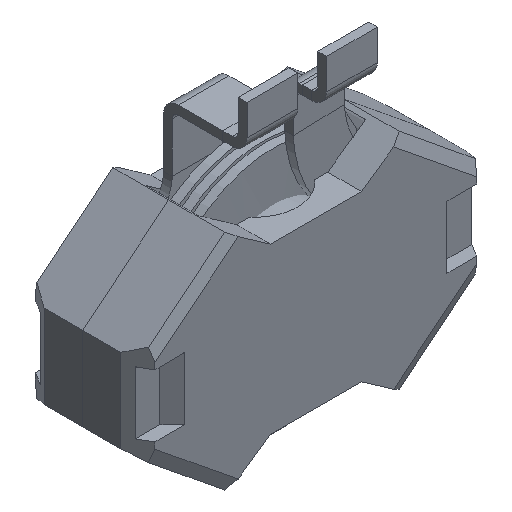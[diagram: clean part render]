
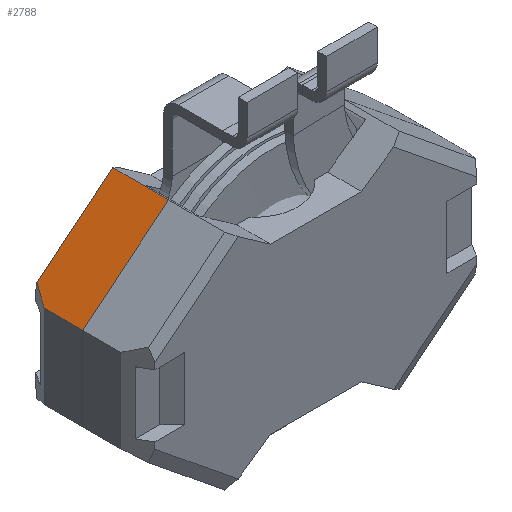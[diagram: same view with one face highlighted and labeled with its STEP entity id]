
A CAD part, isometric view. The second image highlights one B-rep face of the part: STEP entity #2788.
In plain terms, the highlighted planar face has unit normal (-0.63, 0, 0.776) as drawn and (-0.63, 0, -0.776) by its records, which use the part's own axes.
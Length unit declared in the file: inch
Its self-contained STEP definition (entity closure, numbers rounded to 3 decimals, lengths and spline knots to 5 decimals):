
#231 = AXIS2_PLACEMENT_3D ( 'NONE', #773, #1674, #3797 ) ;
#313 = CARTESIAN_POINT ( 'NONE',  ( -0.54724, 0.18898, -0.13189 ) ) ;
#362 = EDGE_CURVE ( 'NONE', #4469, #4374, #5342, .T. ) ;
#536 = ORIENTED_EDGE ( 'NONE', *, *, #2091, .F. ) ;
#773 = CARTESIAN_POINT ( 'NONE',  ( -0.27559, 0.18898, -0.35236 ) ) ;
#1004 = VECTOR ( 'NONE', #1098, 39.37008 ) ;
#1010 = DIRECTION ( 'NONE',  ( 0., -1., 0. ) ) ;
#1098 = DIRECTION ( 'NONE',  ( -0.776, 0., 0.63 ) ) ;
#1115 = CARTESIAN_POINT ( 'NONE',  ( -0.27559, 0.18898, -0.35236 ) ) ;
#1248 = LINE ( 'NONE', #4348, #2582 ) ;
#1330 = EDGE_CURVE ( 'NONE', #4469, #3904, #4844, .T. ) ;
#1337 = VECTOR ( 'NONE', #1010, 39.37008 ) ;
#1674 = DIRECTION ( 'NONE',  ( 0.63, 0., 0.776 ) ) ;
#1837 = CARTESIAN_POINT ( 'NONE',  ( -0.51532, 0.0129, -0.1578 ) ) ;
#1850 = CARTESIAN_POINT ( 'NONE',  ( -0.27559, 0.18898, -0.35236 ) ) ;
#1851 = CARTESIAN_POINT ( 'NONE',  ( -0.5932, 0.14778, -0.09459 ) ) ;
#1867 = DIRECTION ( 'NONE',  ( -0.463, 0.802, 0.376 ) ) ;
#1979 = LINE ( 'NONE', #1851, #2508 ) ;
#2091 = EDGE_CURVE ( 'NONE', #3904, #4296, #4336, .T. ) ;
#2508 = VECTOR ( 'NONE', #1867, 39.37008 ) ;
#2582 = VECTOR ( 'NONE', #4726, 39.37008 ) ;
#2788 = ADVANCED_FACE ( 'NONE', ( #5536 ), #4270, .F. ) ;
#2966 = ORIENTED_EDGE ( 'NONE', *, *, #1330, .F. ) ;
#3413 = DIRECTION ( 'NONE',  ( 0., -1., 0. ) ) ;
#3506 = ORIENTED_EDGE ( 'NONE', *, *, #362, .T. ) ;
#3797 = DIRECTION ( 'NONE',  ( 0.776, 0., -0.63 ) ) ;
#3855 = EDGE_CURVE ( 'NONE', #4374, #5551, #1248, .T. ) ;
#3904 = VERTEX_POINT ( 'NONE', #313 ) ;
#4177 = CARTESIAN_POINT ( 'NONE',  ( -0.54724, 0.06819, -0.13189 ) ) ;
#4270 = PLANE ( 'NONE',  #231 ) ;
#4296 = VERTEX_POINT ( 'NONE', #4177 ) ;
#4301 = EDGE_CURVE ( 'NONE', #5551, #4296, #1979, .T. ) ;
#4336 = LINE ( 'NONE', #5153, #4877 ) ;
#4348 = CARTESIAN_POINT ( 'NONE',  ( -0.27559, 0.0129, -0.35236 ) ) ;
#4374 = VERTEX_POINT ( 'NONE', #5381 ) ;
#4404 = CARTESIAN_POINT ( 'NONE',  ( -0.27559, 0.18898, -0.35236 ) ) ;
#4469 = VERTEX_POINT ( 'NONE', #1115 ) ;
#4484 = ORIENTED_EDGE ( 'NONE', *, *, #3855, .T. ) ;
#4726 = DIRECTION ( 'NONE',  ( -0.776, 0., 0.63 ) ) ;
#4844 = LINE ( 'NONE', #4404, #1004 ) ;
#4847 = ORIENTED_EDGE ( 'NONE', *, *, #4301, .T. ) ;
#4877 = VECTOR ( 'NONE', #3413, 39.37008 ) ;
#5153 = CARTESIAN_POINT ( 'NONE',  ( -0.54724, 0.18898, -0.13189 ) ) ;
#5176 = EDGE_LOOP ( 'NONE', ( #3506, #4484, #4847, #536, #2966 ) ) ;
#5342 = LINE ( 'NONE', #1850, #1337 ) ;
#5381 = CARTESIAN_POINT ( 'NONE',  ( -0.27559, 0.0129, -0.35236 ) ) ;
#5536 = FACE_OUTER_BOUND ( 'NONE', #5176, .T. ) ;
#5551 = VERTEX_POINT ( 'NONE', #1837 ) ;
